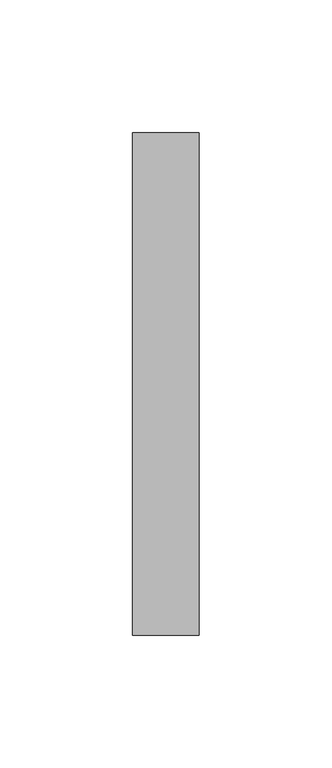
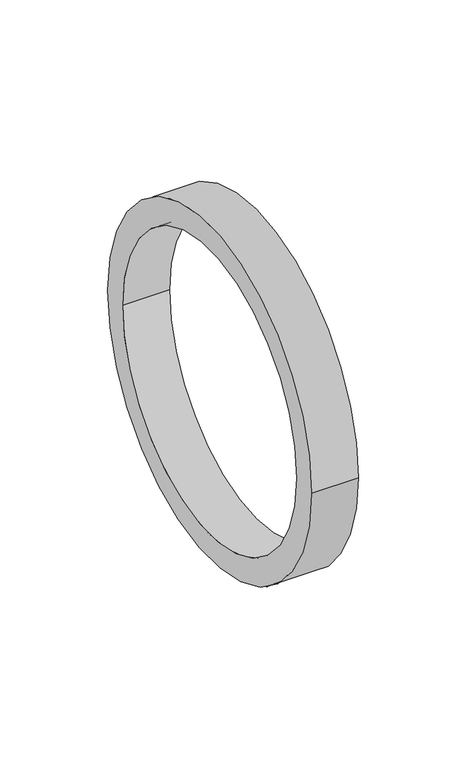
"""IFC4 building model written with IfcOpenShell, lengths in millimetres: pipe fitting geometry, Pipelife - Pragma OD - Pierścień z uszczelką : Pipelife - Pragma OD - Pierścień z uszczelką."""

from ifc_helpers import new_model, si_unit, point, frame, origin, origin_2d, place, context, project, spatial, circle_curve, trimmed, segment, composite_curve, outline, extrude, source, transform, mapped, element, save


def pipe_fitting_346089aa(model_context):
    return source(origin(), model_context, "Body", "SweptSolid", [
        extrude(outline(composite_curve([segment(trimmed(circle_curve(origin_2d(), 94.5), [point((-94.5, 0.0))], [point((94.5, 0.0))], False, "CARTESIAN"), True, "CONTINUOUS"), segment(trimmed(circle_curve(origin_2d(), 94.5), [point((94.5, 0.0))], [point((-94.5, 0.0))], False, "CARTESIAN"), True, "CONTINUOUS")], self_intersect=False), holes=[composite_curve([segment(trimmed(circle_curve(origin_2d(), 80.5), [point((-80.5, 0.0))], [point((80.5, 0.0))], True, "CARTESIAN"), True, "CONTINUOUS"), segment(trimmed(circle_curve(origin_2d(), 80.5), [point((80.5, 0.0))], [point((-80.5, 0.0))], True, "CARTESIAN"), True, "CONTINUOUS")], self_intersect=False)]), frame((-12.5, 0.0, 0.0), z_axis=(1.0, 0.0, 0.0), x_axis=(0.0, 1.0, 0.0)), (0.0, 0.0, 1.0), 25.0),
    ])


if __name__ == "__main__":
    model = new_model("IFC4")
    model_context = context("Model", 3, world=origin())
    ifc_project = project(units=[si_unit("LENGTHUNIT", "METRE", prefix="MILLI")], contexts=[model_context])
    site = spatial("IfcSite", under=ifc_project)
    building = spatial("IfcBuilding", under=site)
    placement = place(None, origin())
    pipe_fitting_shape = pipe_fitting_346089aa(model_context)
    element("IfcPipeFitting", 1, ObjectType="Pipelife - Pragma OD - Pierścień z uszczelką : Pipelife - Pragma OD - Pierścień z uszczelką", at=placement, inside=building, context=model_context, shape_type="MappedRepresentation", body=[
        mapped(pipe_fitting_shape, transform((0.0, 0.0, 0.0), x_axis=(1.0, 0.0, 0.0), y_axis=(0.0, 1.0, 0.0), z_axis=(0.0, 0.0, 1.0))),
    ])
    save(model, "model.ifc")
